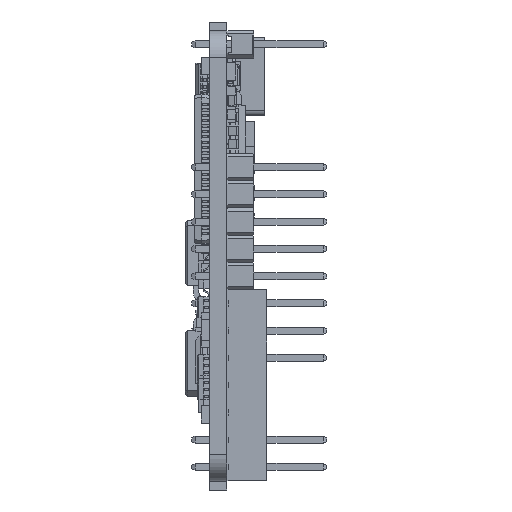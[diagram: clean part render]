
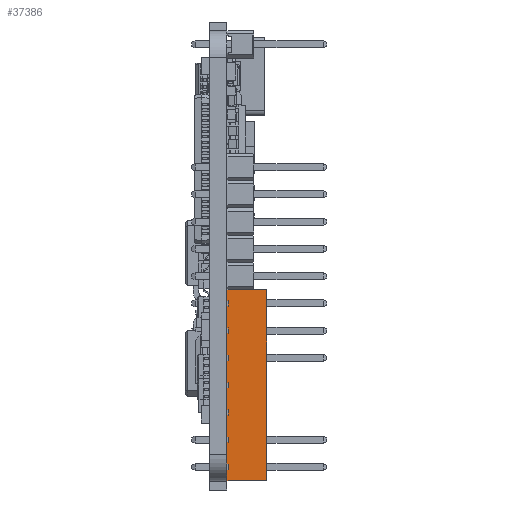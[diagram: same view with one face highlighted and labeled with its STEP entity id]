
A CAD part, left-side view. The second image highlights one B-rep face of the part: STEP entity #37386.
In plain terms, the highlighted planar face has unit normal (-1, 0, 0) as drawn and (0, 0, 1) by its records, which use the part's own axes.
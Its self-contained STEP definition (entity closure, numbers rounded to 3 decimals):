
#8985 = DIRECTION ( 'NONE',  ( 0., -1., 0. ) ) ;
#10213 = DIRECTION ( 'NONE',  ( 1., 0., 0. ) ) ;
#13458 = DIRECTION ( 'NONE',  ( 0., -1., 0. ) ) ;
#14398 = VERTEX_POINT ( 'NONE', #68743 ) ;
#37135 = VECTOR ( 'NONE', #10213, 1000. ) ;
#37386 = ADVANCED_FACE ( 'NONE', ( #45050 ), #119602, .F. ) ;
#41112 = VECTOR ( 'NONE', #183332, 1000. ) ;
#45050 = FACE_OUTER_BOUND ( 'NONE', #108772, .T. ) ;
#45981 = EDGE_CURVE ( 'NONE', #116720, #203708, #63853, .T. ) ;
#60729 = CARTESIAN_POINT ( 'NONE',  ( 8.89, 3.71, 2.54 ) ) ;
#61622 = CARTESIAN_POINT ( 'NONE',  ( -8.89, 0., 2.54 ) ) ;
#63853 = LINE ( 'NONE', #141226, #92471 ) ;
#68743 = CARTESIAN_POINT ( 'NONE',  ( 8.89, 0., 2.54 ) ) ;
#71822 = LINE ( 'NONE', #112913, #160165 ) ;
#83943 = CARTESIAN_POINT ( 'NONE',  ( -8.89, 3.71, 2.54 ) ) ;
#85865 = VERTEX_POINT ( 'NONE', #60729 ) ;
#85881 = AXIS2_PLACEMENT_3D ( 'NONE', #186363, #86949, #203049 ) ;
#86949 = DIRECTION ( 'NONE',  ( 0., 0., -1. ) ) ;
#89082 = EDGE_CURVE ( 'NONE', #85865, #14398, #71822, .T. ) ;
#92471 = VECTOR ( 'NONE', #8985, 1000. ) ;
#93039 = CARTESIAN_POINT ( 'NONE',  ( -8.89, 0., 2.54 ) ) ;
#108772 = EDGE_LOOP ( 'NONE', ( #140197, #188156, #115826, #152874 ) ) ;
#112913 = CARTESIAN_POINT ( 'NONE',  ( 8.89, 3.71, 2.54 ) ) ;
#115826 = ORIENTED_EDGE ( 'NONE', *, *, #166826, .F. ) ;
#116720 = VERTEX_POINT ( 'NONE', #215468 ) ;
#119602 = PLANE ( 'NONE',  #85881 ) ;
#119674 = EDGE_CURVE ( 'NONE', #203708, #14398, #125433, .T. ) ;
#125433 = LINE ( 'NONE', #93039, #37135 ) ;
#140197 = ORIENTED_EDGE ( 'NONE', *, *, #119674, .T. ) ;
#141226 = CARTESIAN_POINT ( 'NONE',  ( -8.89, 3.71, 2.54 ) ) ;
#152874 = ORIENTED_EDGE ( 'NONE', *, *, #45981, .T. ) ;
#160165 = VECTOR ( 'NONE', #13458, 1000. ) ;
#166826 = EDGE_CURVE ( 'NONE', #116720, #85865, #212471, .T. ) ;
#183332 = DIRECTION ( 'NONE',  ( 1., 0., 0. ) ) ;
#186363 = CARTESIAN_POINT ( 'NONE',  ( -8.89, 3.71, 2.54 ) ) ;
#188156 = ORIENTED_EDGE ( 'NONE', *, *, #89082, .F. ) ;
#203049 = DIRECTION ( 'NONE',  ( -1., 0., 0. ) ) ;
#203708 = VERTEX_POINT ( 'NONE', #61622 ) ;
#212471 = LINE ( 'NONE', #83943, #41112 ) ;
#215468 = CARTESIAN_POINT ( 'NONE',  ( -8.89, 3.71, 2.54 ) ) ;
